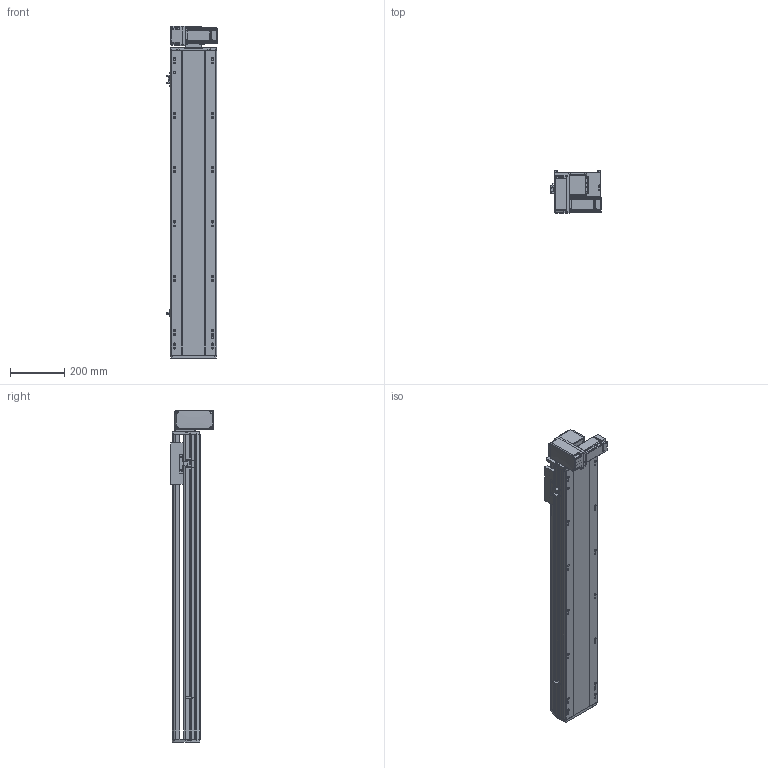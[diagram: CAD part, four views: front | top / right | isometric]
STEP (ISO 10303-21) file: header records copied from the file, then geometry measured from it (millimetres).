
FILE_DESCRIPTION (( 'STEP AP214' ), '1' );
FILE_NAME ('RTB17S-XX-850-LM-M40-C4.STEP', '2025-12-11T06:25:22', ( '' ), ( '' ), 'SwSTEP 2.0', 'SolidWorks 2018', '' );
FILE_SCHEMA (( 'AUTOMOTIVE_DESIGN' ));
Length unit declared in the file: millimetre
Products named in the file (14): RTB14-L-008-M20--萇儂啣^RTB17S-LM-々湍釱蚾饜-400W_RTB17S-XX-XX-LM-M40-C4; RTB17S-XX-850-LM-M40-C4; RTB14-L-017P^RTB17S-LM-々湍釱蚾饜-400W_RTB17S-XX-XX-LM-M40-C4; OMRON EE-SX672 传感器^RTB17S-XX-XX-LM-M40-C4; RTB17-R-011菁釱^RTB17S-XX-XX-LM-M40-C4; 400W侜督萇儂^RTB17S-XX-XX-LM-M40-C4; RTB17S-L-007奻裔^RTB17S-XX-XX-LM-M40-C4; RTB14-L-018P^RTB17S-LM-々湍釱蚾饜-400W_RTB17S-XX-XX-LM-M40-C4; RTB17S-LM-々湍釱蚾饜-400W^RTB17S-XX-XX-LM-M40-C4; RTB14-L-005P--轴承塑胶压盖^RTB17S-LM-皮带座装配-400W_RTB17S-XX-XX-LM-M40-C4; RTB17S-L-001耜醱啣^RTB17S-XX-XX-LM-M40-C4; RMP17S-L-014-T20--々湍釱^RTB17S-LM-々湍釱蚾饜-400W_RTB17S-XX-XX-LM-M40-C4; RTH13-BL-012覜茼え俋离^RTB17S-XX-XX-LM-M40-C4; RTB17S-L-004佪裝蹟譫蟀諉釱^RTB17S-XX-XX-LM-M40-C4
Assembly tree (16 placements, depth 3):
  RTB17S-XX-850-LM-M40-C4
    RTB17-R-011菁釱^RTB17S-XX-XX-LM-M40-C4
    RTB17S-L-007奻裔^RTB17S-XX-XX-LM-M40-C4
    OMRON EE-SX672 传感器^RTB17S-XX-XX-LM-M40-C4  x3
    RTH13-BL-012覜茼え俋离^RTB17S-XX-XX-LM-M40-C4
    RTB17S-L-001耜醱啣^RTB17S-XX-XX-LM-M40-C4
    400W侜督萇儂^RTB17S-XX-XX-LM-M40-C4
    RTB17S-L-004佪裝蹟譫蟀諉釱^RTB17S-XX-XX-LM-M40-C4
    RTB17S-LM-々湍釱蚾饜-400W^RTB17S-XX-XX-LM-M40-C4
      RMP17S-L-014-T20--々湍釱^RTB17S-LM-々湍釱蚾饜-400W_RTB17S-XX-XX-LM-M40-C4
      RTB14-L-005P--轴承塑胶压盖^RTB17S-LM-皮带座装配-400W_RTB17S-XX-XX-LM-M40-C4
      RTB14-L-008-M20--萇儂啣^RTB17S-LM-々湍釱蚾饜-400W_RTB17S-XX-XX-LM-M40-C4
      RTB14-L-017P^RTB17S-LM-々湍釱蚾饜-400W_RTB17S-XX-XX-LM-M40-C4  x2
      RTB14-L-018P^RTB17S-LM-々湍釱蚾饜-400W_RTB17S-XX-XX-LM-M40-C4
Bounding box: 186 x 156.5 x 1222.5 mm (x, y, z)
Volume: 11145888.7 mm3; surface area: 1366469.8 mm2
Topology: 15 solids, 15 shells, 2205 faces, 6087 edges, 3969 vertices
Faces by surface type: plane 1068, cylinder 689, bspline 301, cone 139, torus 8
Entity records: 62633 total; most frequent: CARTESIAN_POINT 17492, ORIENTED_EDGE 9018, DIRECTION 8396, EDGE_CURVE 4509, VERTEX_POINT 2957, AXIS2_PLACEMENT_3D 2887, VECTOR 2622, LINE 2622
